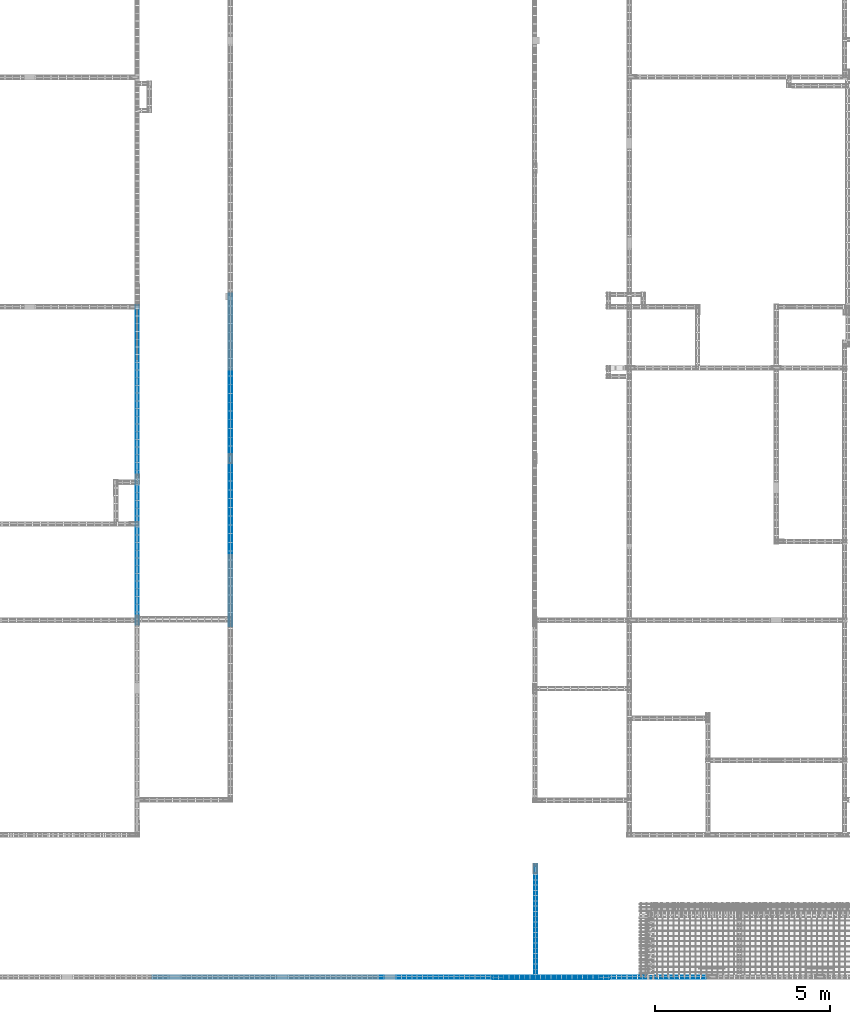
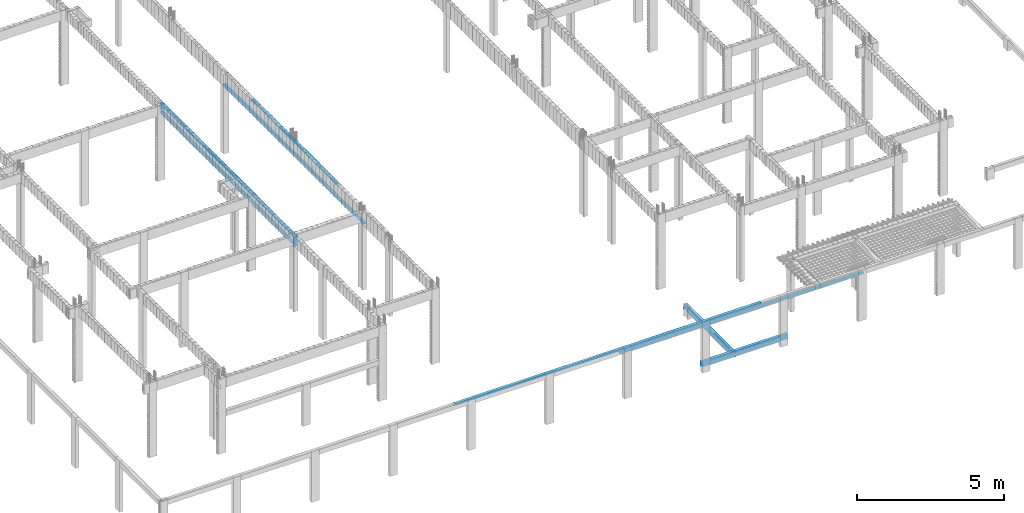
# One storey, part 32 of 236: 20 reinforcing bars.
"""IFC4 building model written with IfcOpenShell, lengths in centimetres."""

from ifc_helpers import new_model, entity, si_unit, derived_unit, frame, origin_with_axes, place, context, project, spatial, element, save


model = new_model("IFC4")

# Units and contexts
model_context = context("Model", 3, precision=1e-05, world=origin_with_axes(), identifier="Body")
ifc_project = project(units=[si_unit("LENGTHUNIT", "METRE", prefix="CENTI"), si_unit("VOLUMEUNIT", "CUBIC_METRE"), si_unit("AREAUNIT", "SQUARE_METRE"), si_unit("POWERUNIT", "WATT"), si_unit("LUMINOUSFLUXUNIT", "LUMEN"), si_unit("ELECTRICCURRENTUNIT", "AMPERE"), si_unit("PRESSUREUNIT", "PASCAL", prefix="KILO"), si_unit("MASSUNIT", "GRAM", prefix="KILO"), si_unit("PLANEANGLEUNIT", "RADIAN"), derived_unit("VOLUMETRICFLOWRATEUNIT", [(si_unit("LENGTHUNIT", "METRE"), 3), (si_unit("TIMEUNIT", "SECOND"), -1)])], contexts=[model_context])

# Site, building, storey
site_placement = place(None, frame((-4000.0, 0.0, 0.0), z_axis=(0.0, 0.0, 1.0), x_axis=(1.0, 0.0, 0.0)))
site = spatial("IfcSite", under=ifc_project, at=site_placement, Name="PADRÃO")
building_placement = place(site_placement, frame((0.0, 0.0, -14.0)))
building = spatial("IfcBuilding", under=site, at=building_placement, Name="CRECHE PRÉ-ESCOLA TIPO 2")
placement_1 = place(building_placement, origin_with_axes())
placement_2 = place(placement_1, frame((0.0, 0.0, 30.0), z_axis=(0.0, 0.0, 1.0), x_axis=(1.0, 0.0, 0.0)))
storey_placement = place(placement_2, frame((0.0, 0.0, 310.0), z_axis=(0.0, 0.0, 1.0), x_axis=(1.0, 0.0, 0.0)))
storey = spatial("IfcBuildingStorey", under=building, at=storey_placement, Name="TERREO", CompositionType="ELEMENT", Elevation=326.0)

# Reinforcing bars
for number, where, z_axis, x_axis, name in (
    (1, (1122.82, 1471.5, -36.7), (0.0, 0.0, 1.0), (1.0, 0.0, 0.0), "V277 - Longitudinal inferior"),
    (2, (1114.62, 1471.5, -36.7), (0.0, 0.0, 1.0), (1.0, 0.0, 0.0), "V277 - Longitudinal inferior"),
):
    element("IfcReinforcingBar", number, at=place(storey_placement, frame(where, z_axis=z_axis, x_axis=x_axis)), inside=storey, Name=name, BarLength=0.0, CrossSectionArea=5.0265482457e-05, NominalDiameter=0.8, PredefinedType="MAIN", context=model_context, shape_type="AdvancedSweptSolid", body=[
        entity("IfcSweptDiskSolid", entity("IfcCompositeCurve", [entity("IfcCompositeCurveSegment", "CONTINUOUS", True, entity("IfcPolyline", [entity("IfcCartesianPoint", [0.0, -456.0, -0.4]), entity("IfcCartesianPoint", [0.0, 456.0, -0.4])]))], False), 0.4),
    ])
for number, where, z_axis, x_axis, name in (
    (3, (1114.62, 1471.5, -2.49624973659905), (0.0, 0.0, 1.0), (1.0, 0.0, 0.0), "V277 - Longitudinal superior"),
    (4, (1122.82, 1471.5, -2.49624973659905), (0.0, 0.0, 1.0), (1.0, 0.0, 0.0), "V277 - Longitudinal superior"),
):
    element("IfcReinforcingBar", number, at=place(storey_placement, frame(where, z_axis=z_axis, x_axis=x_axis)), inside=storey, Name=name, BarLength=0.0, CrossSectionArea=5.0265482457e-05, NominalDiameter=0.8, PredefinedType="MAIN", context=model_context, shape_type="AdvancedSweptSolid", body=[
        entity("IfcSweptDiskSolid", entity("IfcCompositeCurve", [entity("IfcCompositeCurveSegment", "CONTINUOUS", True, entity("IfcPolyline", [entity("IfcCartesianPoint", [0.0, -455.6, -22.7014629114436]), entity("IfcCartesianPoint", [0.0, -455.6, -0.403750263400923])])), entity("IfcCompositeCurveSegment", "CONTINUOUS", True, entity("IfcPolyline", [entity("IfcCartesianPoint", [0.0, -455.6, -0.403750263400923]), entity("IfcCartesianPoint", [0.0, 455.6, -0.403750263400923])])), entity("IfcCompositeCurveSegment", "CONTINUOUS", True, entity("IfcPolyline", [entity("IfcCartesianPoint", [0.0, 455.6, -0.403750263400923]), entity("IfcCartesianPoint", [0.0, 455.6, -21.795640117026])]))], False), 0.4),
    ])
for number, where, z_axis, x_axis, name in (
    (5, (1388.715, 1485.505, -36.25), (0.0, 0.0, 1.0), (1.0, 0.0, 0.0), "V283 - Longitudinal inferior"),
    (6, (1380.965, 1485.505, -36.25), (0.0, 0.0, 1.0), (1.0, 0.0, 0.0), "V283 - Longitudinal inferior"),
):
    element("IfcReinforcingBar", number, at=place(storey_placement, frame(where, z_axis=z_axis, x_axis=x_axis)), inside=storey, Name=name, BarLength=0.0, CrossSectionArea=0.000122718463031, NominalDiameter=1.25, PredefinedType="MAIN", context=model_context, shape_type="AdvancedSweptSolid", body=[
        entity("IfcSweptDiskSolid", entity("IfcCompositeCurve", [entity("IfcCompositeCurveSegment", "CONTINUOUS", True, entity("IfcPolyline", [entity("IfcCartesianPoint", [0.0, -474.995, -0.625]), entity("IfcCartesianPoint", [0.0, 474.995, -0.625])]))], False), 0.625),
    ])
for number, where, z_axis, x_axis, name in (
    (7, (1380.74, 1478.005, 17.5), (0.0, 0.0, 1.0), (1.0, 0.0, 0.0), "V283 - Longitudinal superior"),
    (8, (1388.94, 1478.005, 17.5), (0.0, 0.0, 1.0), (1.0, 0.0, 0.0), "V283 - Longitudinal superior"),
):
    element("IfcReinforcingBar", number, at=place(storey_placement, frame(where, z_axis=z_axis, x_axis=x_axis)), inside=storey, Name=name, BarLength=0.0, CrossSectionArea=5.0265482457e-05, NominalDiameter=0.8, PredefinedType="MAIN", context=model_context, shape_type="AdvancedSweptSolid", body=[
        entity("IfcSweptDiskSolid", entity("IfcCompositeCurve", [entity("IfcCompositeCurveSegment", "CONTINUOUS", True, entity("IfcPolyline", [entity("IfcCartesianPoint", [0.0, -287.368577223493, -0.4]), entity("IfcCartesianPoint", [0.0, 287.368577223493, -0.4])]))], False), 0.4),
    ])
for number, where, z_axis, x_axis, name in (
    (9, (2289.15707995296, 4.9, -116.7), (0.0, 0.0, 1.0), (1.0, 0.0, 0.0), "V323 - Longitudinal inferior"),
    (10, (2289.15707995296, 13.1, -116.7), (0.0, 0.0, 1.0), (1.0, 0.0, 0.0), "V323 - Longitudinal inferior"),
):
    element("IfcReinforcingBar", number, at=place(storey_placement, frame(where, z_axis=z_axis, x_axis=x_axis)), inside=storey, Name=name, BarLength=0.0, CrossSectionArea=5.0265482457e-05, NominalDiameter=0.8, PredefinedType="MAIN", context=model_context, shape_type="AdvancedSweptSolid", body=[
        entity("IfcSweptDiskSolid", entity("IfcCompositeCurve", [entity("IfcCompositeCurveSegment", "CONTINUOUS", True, entity("IfcPolyline", [entity("IfcCartesianPoint", [-476.342920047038, 0.0, -0.4]), entity("IfcCartesianPoint", [476.342920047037, 0.0, -0.4])]))], False), 0.4),
    ])
for number, where, z_axis, x_axis, name in (
    (11, (1763.42850246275, 4.9, -102.5), (0.0, 0.0, 1.0), (1.0, 0.0, 0.0), "V323 - Longitudinal superior"),
    (12, (1763.42850246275, 13.1, -102.5), (0.0, 0.0, 1.0), (1.0, 0.0, 0.0), "V323 - Longitudinal superior"),
):
    element("IfcReinforcingBar", number, at=place(storey_placement, frame(where, z_axis=z_axis, x_axis=x_axis)), inside=storey, Name=name, BarLength=0.0, CrossSectionArea=5.0265482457e-05, NominalDiameter=0.8, PredefinedType="MAIN", context=model_context, shape_type="AdvancedSweptSolid", body=[
        entity("IfcSweptDiskSolid", entity("IfcCompositeCurve", [entity("IfcCompositeCurveSegment", "CONTINUOUS", True, entity("IfcPolyline", [entity("IfcCartesianPoint", [-600.0, 0.0, -0.4]), entity("IfcCartesianPoint", [600.0, 0.0, -0.4])]))], False), 0.4),
    ])
for number, where, z_axis, x_axis, name in (
    (13, (2300.0, 3.9, -281.7), (0.0, 0.0, 1.0), (1.0, 0.0, 0.0), "V329 - Longitudinal inferior"),
    (14, (2300.0, 12.1, -281.7), (0.0, 0.0, 1.0), (1.0, 0.0, 0.0), "V329 - Longitudinal inferior"),
):
    element("IfcReinforcingBar", number, at=place(storey_placement, frame(where, z_axis=z_axis, x_axis=x_axis)), inside=storey, Name=name, BarLength=0.0, CrossSectionArea=5.0265482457e-05, NominalDiameter=0.8, PredefinedType="MAIN", context=model_context, shape_type="AdvancedSweptSolid", body=[
        entity("IfcSweptDiskSolid", entity("IfcCompositeCurve", [entity("IfcCompositeCurveSegment", "CONTINUOUS", True, entity("IfcPolyline", [entity("IfcCartesianPoint", [-166.5, 0.0, -0.4]), entity("IfcCartesianPoint", [166.5, 0.0, -0.4])]))], False), 0.4),
    ])
for number, where, z_axis, x_axis, name in (
    (15, (2300.0, 12.1, -267.496249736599), (0.0, 0.0, 1.0), (1.0, 0.0, 0.0), "V329 - Longitudinal superior"),
    (16, (2300.0, 3.9, -267.496249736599), (0.0, 0.0, 1.0), (1.0, 0.0, 0.0), "V329 - Longitudinal superior"),
):
    element("IfcReinforcingBar", number, at=place(storey_placement, frame(where, z_axis=z_axis, x_axis=x_axis)), inside=storey, Name=name, BarLength=0.0, CrossSectionArea=5.0265482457e-05, NominalDiameter=0.8, PredefinedType="MAIN", context=model_context, shape_type="AdvancedSweptSolid", body=[
        entity("IfcSweptDiskSolid", entity("IfcCompositeCurve", [entity("IfcCompositeCurveSegment", "CONTINUOUS", True, entity("IfcPolyline", [entity("IfcCartesianPoint", [-166.1, 0.0, -10.403750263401]), entity("IfcCartesianPoint", [-166.1, 0.0, -0.403750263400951])])), entity("IfcCompositeCurveSegment", "CONTINUOUS", True, entity("IfcPolyline", [entity("IfcCartesianPoint", [-166.1, 0.0, -0.403750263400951]), entity("IfcCartesianPoint", [166.1, 0.0, -0.403750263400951])])), entity("IfcCompositeCurveSegment", "CONTINUOUS", True, entity("IfcPolyline", [entity("IfcCartesianPoint", [166.1, 0.0, -0.403750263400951]), entity("IfcCartesianPoint", [166.1, 0.0, -10.403750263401])]))], False), 0.4),
    ])
for number, where, z_axis, x_axis, name in (
    (17, (2251.88, 167.51, -281.7), (0.0, 0.0, 1.0), (1.0, 0.0, 0.0), "V330 - Longitudinal inferior"),
    (18, (2260.08, 167.51, -281.7), (0.0, 0.0, 1.0), (1.0, 0.0, 0.0), "V330 - Longitudinal inferior"),
):
    element("IfcReinforcingBar", number, at=place(storey_placement, frame(where, z_axis=z_axis, x_axis=x_axis)), inside=storey, Name=name, BarLength=0.0, CrossSectionArea=5.0265482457e-05, NominalDiameter=0.8, PredefinedType="MAIN", context=model_context, shape_type="AdvancedSweptSolid", body=[
        entity("IfcSweptDiskSolid", entity("IfcCompositeCurve", [entity("IfcCompositeCurveSegment", "CONTINUOUS", True, entity("IfcPolyline", [entity("IfcCartesianPoint", [0.0, -164.51, -0.4]), entity("IfcCartesianPoint", [0.0, 164.51, -0.4])]))], False), 0.4),
    ])
for number, where, z_axis, x_axis, name in (
    (19, (2260.08, 167.51, -267.496249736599), (0.0, 0.0, 1.0), (1.0, 0.0, 0.0), "V330 - Longitudinal superior"),
    (20, (2251.88, 167.51, -267.496249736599), (0.0, 0.0, 1.0), (1.0, 0.0, 0.0), "V330 - Longitudinal superior"),
):
    element("IfcReinforcingBar", number, at=place(storey_placement, frame(where, z_axis=z_axis, x_axis=x_axis)), inside=storey, Name=name, BarLength=0.0, CrossSectionArea=5.0265482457e-05, NominalDiameter=0.8, PredefinedType="MAIN", context=model_context, shape_type="AdvancedSweptSolid", body=[
        entity("IfcSweptDiskSolid", entity("IfcCompositeCurve", [entity("IfcCompositeCurveSegment", "CONTINUOUS", True, entity("IfcPolyline", [entity("IfcCartesianPoint", [0.0, -164.11, -16.403750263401]), entity("IfcCartesianPoint", [0.0, -164.11, -0.403750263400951])])), entity("IfcCompositeCurveSegment", "CONTINUOUS", True, entity("IfcPolyline", [entity("IfcCartesianPoint", [0.0, -164.11, -0.403750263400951]), entity("IfcCartesianPoint", [0.0, 164.11, -0.403750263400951])])), entity("IfcCompositeCurveSegment", "CONTINUOUS", True, entity("IfcPolyline", [entity("IfcCartesianPoint", [0.0, 164.11, -0.403750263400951]), entity("IfcCartesianPoint", [0.0, 164.11, -11.5526065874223])]))], False), 0.4),
    ])

save(model, "model.ifc")
